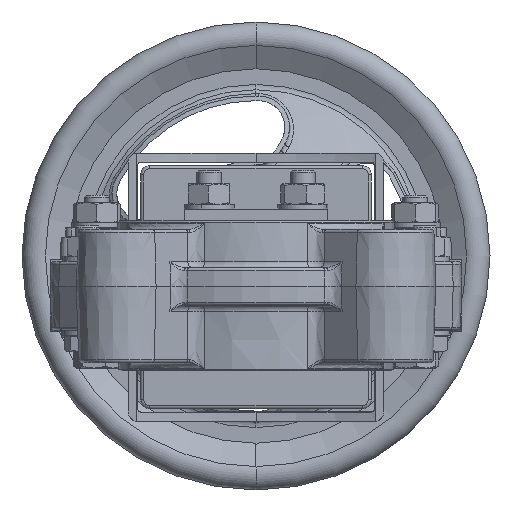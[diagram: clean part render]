
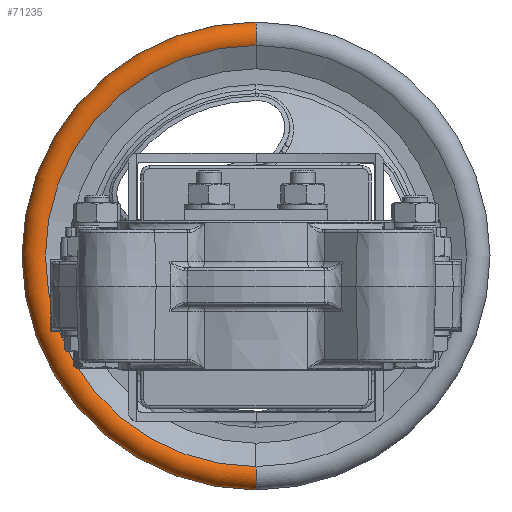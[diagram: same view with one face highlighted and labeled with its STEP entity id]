
A CAD part, front view. The second image highlights one B-rep face of the part: STEP entity #71235.
In plain terms, the highlighted toroidal (fillet/blend) face has major radius 70 mm and minor radius 5 mm.
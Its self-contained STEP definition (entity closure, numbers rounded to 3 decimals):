
#5082 = CARTESIAN_POINT ( 'NONE',  ( 0., 302.67, -57.75 ) ) ;
#5636 = CARTESIAN_POINT ( 'NONE',  ( 0., 307., -65.25 ) ) ;
#6339 = DIRECTION ( 'NONE',  ( 0., -1., 0. ) ) ;
#10005 = EDGE_LOOP ( 'NONE', ( #37915, #57602, #27487, #63463 ) ) ;
#10951 = CARTESIAN_POINT ( 'NONE',  ( 0., 302.67, 9.75 ) ) ;
#12070 = CARTESIAN_POINT ( 'NONE',  ( 0., 302.67, 77.25 ) ) ;
#12640 = AXIS2_PLACEMENT_3D ( 'NONE', #59924, #15491, #67424 ) ;
#13466 = CARTESIAN_POINT ( 'NONE',  ( 0., 307., 9.75 ) ) ;
#15491 = DIRECTION ( 'NONE',  ( 1., 0., 0. ) ) ;
#15631 = AXIS2_PLACEMENT_3D ( 'NONE', #10951, #62889, #18446 ) ;
#18446 = DIRECTION ( 'NONE',  ( 0., 0., -1. ) ) ;
#20956 = VERTEX_POINT ( 'NONE', #5082 ) ;
#20989 = DIRECTION ( 'NONE',  ( 0., 0., -1. ) ) ;
#24092 = TOROIDAL_SURFACE ( 'NONE', #70529, 70., 5. ) ;
#26173 = EDGE_CURVE ( 'NONE', #93536, #38115, #41053, .T. ) ;
#27487 = ORIENTED_EDGE ( 'NONE', *, *, #26173, .F. ) ;
#32555 = AXIS2_PLACEMENT_3D ( 'NONE', #95319, #50853, #6339 ) ;
#33162 = DIRECTION ( 'NONE',  ( 0., 0., -1. ) ) ;
#37915 = ORIENTED_EDGE ( 'NONE', *, *, #87797, .T. ) ;
#38115 = VERTEX_POINT ( 'NONE', #68564 ) ;
#38141 = CIRCLE ( 'NONE', #32555, 5. ) ;
#41053 = CIRCLE ( 'NONE', #73371, 75. ) ;
#41686 = VERTEX_POINT ( 'NONE', #12070 ) ;
#50738 = FACE_OUTER_BOUND ( 'NONE', #10005, .T. ) ;
#50853 = DIRECTION ( 'NONE',  ( -1., 0., 0. ) ) ;
#55924 = EDGE_CURVE ( 'NONE', #20956, #93536, #93716, .T. ) ;
#57602 = ORIENTED_EDGE ( 'NONE', *, *, #79563, .T. ) ;
#59924 = CARTESIAN_POINT ( 'NONE',  ( 0., 307., -60.25 ) ) ;
#62889 = DIRECTION ( 'NONE',  ( 0., 1., 0. ) ) ;
#63463 = ORIENTED_EDGE ( 'NONE', *, *, #55924, .F. ) ;
#65412 = DIRECTION ( 'NONE',  ( 0., 1., 0. ) ) ;
#67424 = DIRECTION ( 'NONE',  ( 0., 1., 0. ) ) ;
#68564 = CARTESIAN_POINT ( 'NONE',  ( 0., 307., 84.75 ) ) ;
#70529 = AXIS2_PLACEMENT_3D ( 'NONE', #75925, #77577, #33162 ) ;
#71235 = ADVANCED_FACE ( 'NONE', ( #50738 ), #24092, .T. ) ;
#73371 = AXIS2_PLACEMENT_3D ( 'NONE', #13466, #65412, #20989 ) ;
#75925 = CARTESIAN_POINT ( 'NONE',  ( 0., 307., 9.75 ) ) ;
#77577 = DIRECTION ( 'NONE',  ( 0., 1., 0. ) ) ;
#79563 = EDGE_CURVE ( 'NONE', #41686, #38115, #38141, .T. ) ;
#87057 = CIRCLE ( 'NONE', #15631, 67.5 ) ;
#87797 = EDGE_CURVE ( 'NONE', #20956, #41686, #87057, .T. ) ;
#93536 = VERTEX_POINT ( 'NONE', #5636 ) ;
#93716 = CIRCLE ( 'NONE', #12640, 5. ) ;
#95319 = CARTESIAN_POINT ( 'NONE',  ( 0., 307., 79.75 ) ) ;
